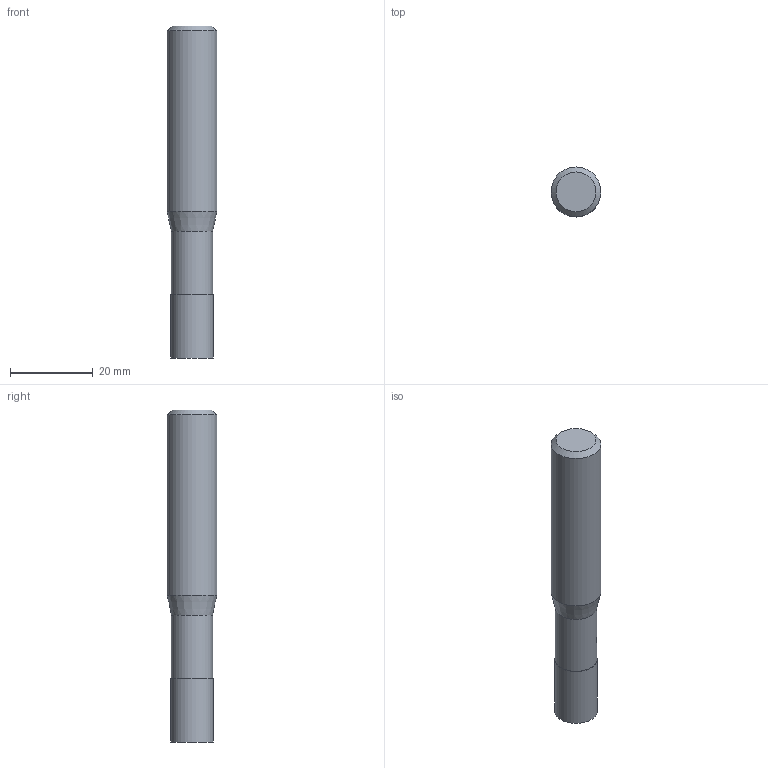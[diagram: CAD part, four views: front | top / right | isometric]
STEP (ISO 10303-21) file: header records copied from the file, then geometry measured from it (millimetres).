
FILE_DESCRIPTION((''),'2;1');
FILE_NAME('C:\Users\nsx150\AppData\Local\Temp\Mastercam 2021\EUJSUNXURU\TEMP.step','2021-04-22T10:30:00',(''),(''),'STEP Write','Mastercam 2021 ... CNC Software, Inc.','');
FILE_SCHEMA(('AUTOMOTIVE_DESIGN'));
Length unit declared in the file: millimetre
Products named in the file (1): None
Bounding box: 12 x 12 x 80 mm (x, y, z)
Volume: 7929.8 mm3; surface area: 3148.8 mm2
Topology: 2 solids, 2 shells, 9 faces, 12 edges, 7 vertices
Faces by surface type: plane 4, cylinder 3, cone 2
Full cylindrical faces by diameter (mm): 10 x1, 10.2 x1, 12 x1
Entity records: 211 total; most frequent: DIRECTION 36, CARTESIAN_POINT 25, AXIS2_PLACEMENT_3D 18, ORIENTED_EDGE 14, EDGE_LOOP 14, STYLED_ITEM 12, ADVANCED_FACE 9, FACE_BOUND 8
